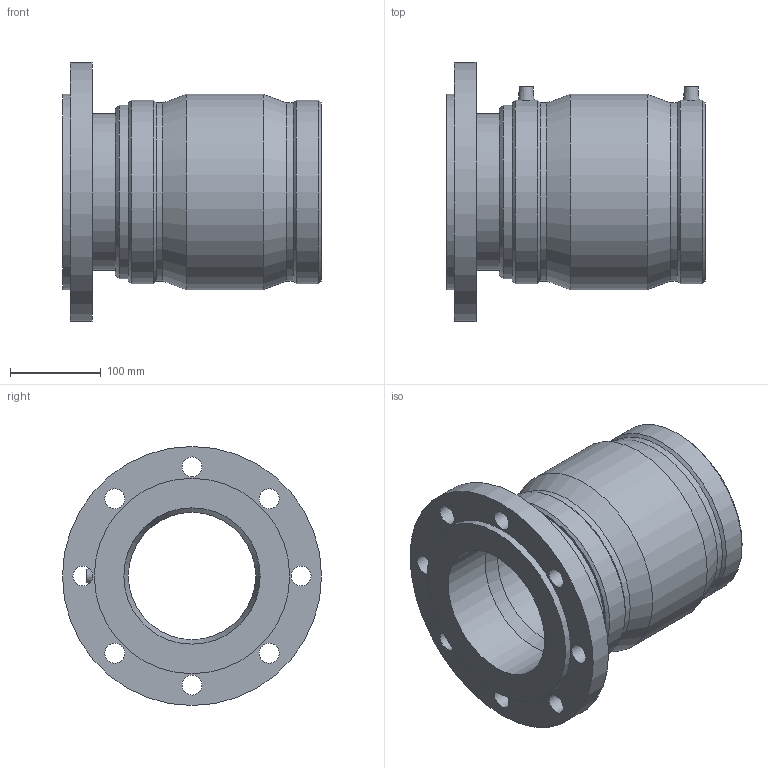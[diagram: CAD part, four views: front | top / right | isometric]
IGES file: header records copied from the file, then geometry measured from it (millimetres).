
Global section: file name: 497704180.ipt; native system: Autodesk Inventor 2015; preprocessor: unknown; author: KIM; date: 20180502.162030; units: millimetre
Bounding box: 284 x 285 x 285 mm (x, y, z)
Volume: 4357756.2 mm3; surface area: 461541.4 mm2
Topology: 1 solids, 2 shells, 55 faces, 121 edges, 80 vertices
Faces by surface type: revolution 17, plane 16, cylinder 13, cone 9
Full cylindrical faces by diameter (mm): 4 x2, 172.215 x1, 180 x2, 191.35 x1, 196.037 x2, 202.1 x2, 215 x2, 285 x1
